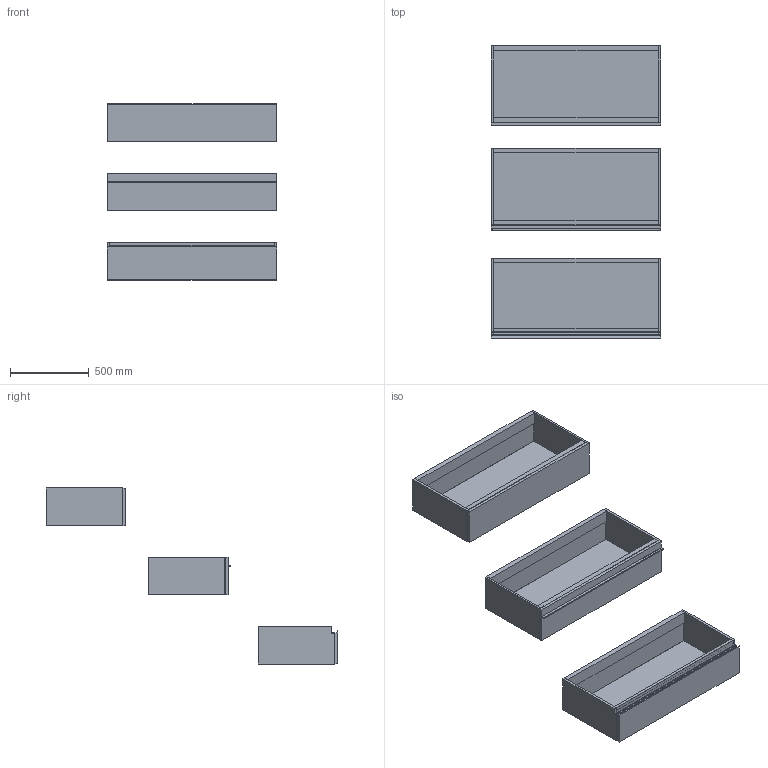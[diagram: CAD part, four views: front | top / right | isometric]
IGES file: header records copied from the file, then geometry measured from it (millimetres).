
Start section: Data from Parasolid IGES Translator 19.0.9, Copyright(c) 2006 Siemens PL M Software. All Rights Reserved.
Global section: file name: noorth-SI-H 24 D 51 W 108_8306.igs; native system: By Siemens PLM Incorporated; preprocessor: XPlus GENERIC/IGES 19.0.9; author: Noname; organization: Noname; date: 20200530.120225; units: metre
Bounding box: 1080 x 1857.1 x 1120.01 mm (x, y, z)
Volume: 60734900.2 mm3; surface area: 8869217.6 mm2
Topology: 23 solids, 23 shells, 196 faces, 418 edges, 258 vertices
Faces by surface type: plane 152, extrusion 16, bspline 16, cylinder 12
